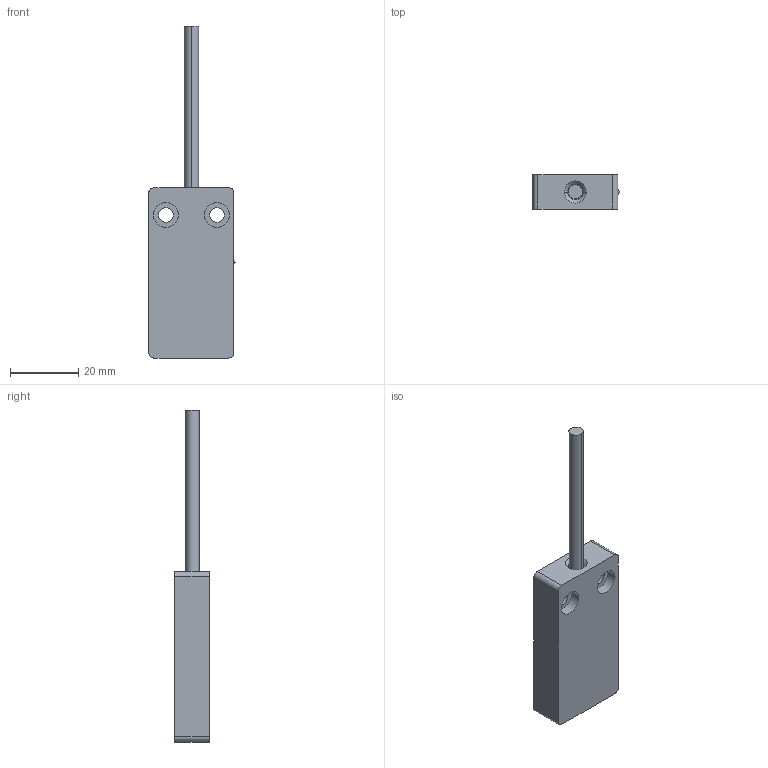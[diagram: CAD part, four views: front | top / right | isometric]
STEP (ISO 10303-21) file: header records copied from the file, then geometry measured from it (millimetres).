
FILE_DESCRIPTION((''),'2;1');
FILE_NAME('6490650399_SW0001','2025-01-08T11:23:51',('Rudolf.Poettker'),(''),'CREO PARAMETRIC BY PTC INC, 2022124','CREO PARAMETRIC BY PTC INC, 2022124','');
FILE_SCHEMA(('AUTOMOTIVE_DESIGN { 1 0 10303 214 1 1 1 1 }'));
Length unit declared in the file: millimetre
Products named in the file (1): 6490650399_SW0001
Bounding box: 25.35 x 10.1 x 97.5 mm (x, y, z)
Volume: 12563.4 mm3; surface area: 5035.5 mm2
Topology: 1 solids, 1 shells, 57 faces, 130 edges, 85 vertices
Faces by surface type: cylinder 28, plane 25, cone 2, sphere 2
Entity records: 3044 total; most frequent: DIRECTION 330, CARTESIAN_POINT 289, ORIENTED_EDGE 256, PRESENTATION_STYLE_ASSIGNMENT 190, COLOUR_RGB 146, STYLED_ITEM 133, CURVE_STYLE 132, AXIS2_PLACEMENT_3D 129
